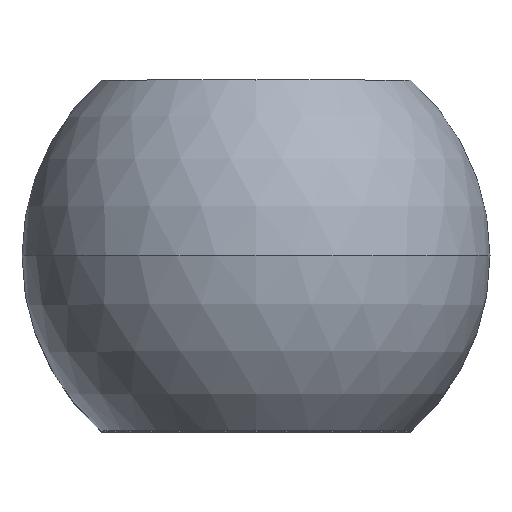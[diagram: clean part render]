
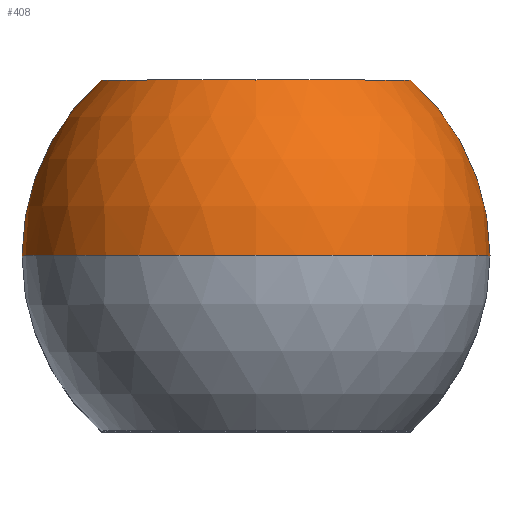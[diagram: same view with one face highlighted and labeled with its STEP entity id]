
A CAD part, top view. The second image highlights one B-rep face of the part: STEP entity #408.
In plain terms, the highlighted spherical face has radius 8 mm.
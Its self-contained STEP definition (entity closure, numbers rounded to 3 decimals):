
#28 = DIRECTION ( 'NONE',  ( 0., 1., 0. ) ) ;
#32 = AXIS2_PLACEMENT_3D ( 'NONE', #69, #28, #510 ) ;
#36 = CIRCLE ( 'NONE', #367, 5.296 ) ;
#39 = DIRECTION ( 'NONE',  ( 0., 0., -1. ) ) ;
#40 = VERTEX_POINT ( 'NONE', #645 ) ;
#41 = CARTESIAN_POINT ( 'NONE',  ( 8., 0., 20. ) ) ;
#54 = CARTESIAN_POINT ( 'NONE',  ( 0., 5.996, 20. ) ) ;
#59 = EDGE_CURVE ( 'NONE', #607, #679, #593, .T. ) ;
#69 = CARTESIAN_POINT ( 'NONE',  ( 0., 0., 20. ) ) ;
#73 = CIRCLE ( 'NONE', #610, 8. ) ;
#97 = ORIENTED_EDGE ( 'NONE', *, *, #192, .T. ) ;
#109 = VERTEX_POINT ( 'NONE', #597 ) ;
#114 = DIRECTION ( 'NONE',  ( 0., 0., 1. ) ) ;
#162 = ORIENTED_EDGE ( 'NONE', *, *, #787, .F. ) ;
#166 = CARTESIAN_POINT ( 'NONE',  ( -8., 0., 20. ) ) ;
#178 = EDGE_CURVE ( 'NONE', #40, #381, #73, .T. ) ;
#192 = EDGE_CURVE ( 'NONE', #40, #476, #36, .T. ) ;
#261 = EDGE_CURVE ( 'NONE', #607, #381, #720, .T. ) ;
#266 = AXIS2_PLACEMENT_3D ( 'NONE', #356, #295, #419 ) ;
#276 = DIRECTION ( 'NONE',  ( 0., 0., 1. ) ) ;
#295 = DIRECTION ( 'NONE',  ( 0., 1., 0. ) ) ;
#307 = EDGE_CURVE ( 'NONE', #476, #109, #708, .T. ) ;
#356 = CARTESIAN_POINT ( 'NONE',  ( 0., 0., 20. ) ) ;
#367 = AXIS2_PLACEMENT_3D ( 'NONE', #54, #479, #114 ) ;
#377 = CARTESIAN_POINT ( 'NONE',  ( 0., 0., 20. ) ) ;
#381 = VERTEX_POINT ( 'NONE', #41 ) ;
#384 = AXIS2_PLACEMENT_3D ( 'NONE', #715, #39, #662 ) ;
#389 = ORIENTED_EDGE ( 'NONE', *, *, #59, .F. ) ;
#396 = SPHERICAL_SURFACE ( 'NONE', #266, 8. ) ;
#407 = EDGE_LOOP ( 'NONE', ( #389, #703, #462, #97, #791, #162 ) ) ;
#408 = ADVANCED_FACE ( 'NONE', ( #522 ), #396, .T. ) ;
#419 = DIRECTION ( 'NONE',  ( -1., 0., 0. ) ) ;
#446 = CARTESIAN_POINT ( 'NONE',  ( 0., 5.996, 25.296 ) ) ;
#459 = DIRECTION ( 'NONE',  ( 0., -1., 0. ) ) ;
#462 = ORIENTED_EDGE ( 'NONE', *, *, #178, .F. ) ;
#463 = AXIS2_PLACEMENT_3D ( 'NONE', #581, #776, #518 ) ;
#476 = VERTEX_POINT ( 'NONE', #446 ) ;
#479 = DIRECTION ( 'NONE',  ( 0., -1., 0. ) ) ;
#510 = DIRECTION ( 'NONE',  ( -1., 0., 0. ) ) ;
#518 = DIRECTION ( 'NONE',  ( 0., 0., -1. ) ) ;
#520 = CARTESIAN_POINT ( 'NONE',  ( 0., 5.996, 20. ) ) ;
#521 = CIRCLE ( 'NONE', #384, 8. ) ;
#522 = FACE_OUTER_BOUND ( 'NONE', #407, .T. ) ;
#581 = CARTESIAN_POINT ( 'NONE',  ( 0., 0., 20. ) ) ;
#593 = CIRCLE ( 'NONE', #463, 8. ) ;
#597 = CARTESIAN_POINT ( 'NONE',  ( -5.296, 5.996, 20. ) ) ;
#598 = AXIS2_PLACEMENT_3D ( 'NONE', #520, #459, #276 ) ;
#607 = VERTEX_POINT ( 'NONE', #757 ) ;
#610 = AXIS2_PLACEMENT_3D ( 'NONE', #377, #726, #794 ) ;
#645 = CARTESIAN_POINT ( 'NONE',  ( 5.296, 5.996, 20. ) ) ;
#662 = DIRECTION ( 'NONE',  ( -1., 0., 0. ) ) ;
#679 = VERTEX_POINT ( 'NONE', #166 ) ;
#703 = ORIENTED_EDGE ( 'NONE', *, *, #261, .T. ) ;
#708 = CIRCLE ( 'NONE', #598, 5.296 ) ;
#715 = CARTESIAN_POINT ( 'NONE',  ( 0., 0., 20. ) ) ;
#720 = CIRCLE ( 'NONE', #32, 8. ) ;
#726 = DIRECTION ( 'NONE',  ( 0., 0., -1. ) ) ;
#757 = CARTESIAN_POINT ( 'NONE',  ( 0., 0., 28. ) ) ;
#776 = DIRECTION ( 'NONE',  ( 0., -1., 0. ) ) ;
#787 = EDGE_CURVE ( 'NONE', #679, #109, #521, .T. ) ;
#791 = ORIENTED_EDGE ( 'NONE', *, *, #307, .T. ) ;
#794 = DIRECTION ( 'NONE',  ( -1., 0., 0. ) ) ;
